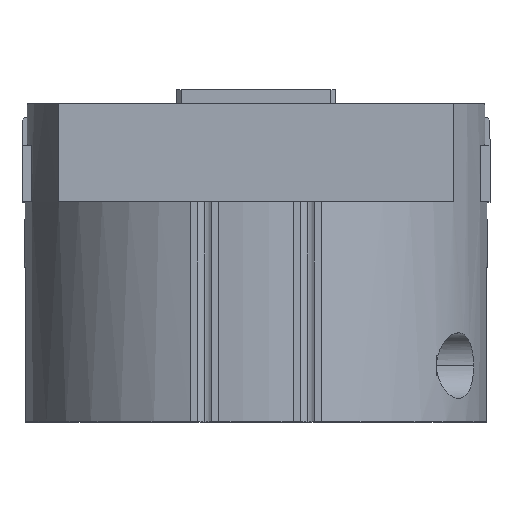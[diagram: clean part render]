
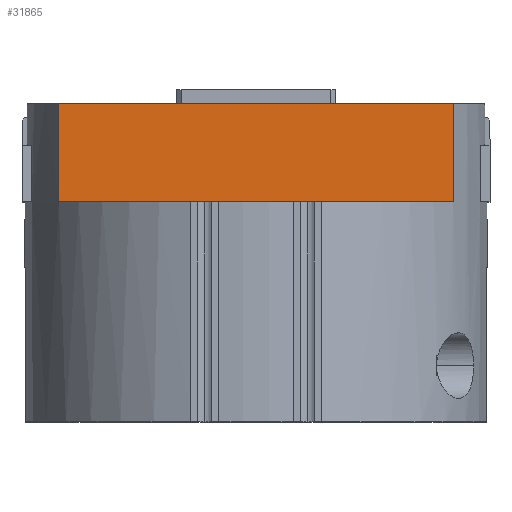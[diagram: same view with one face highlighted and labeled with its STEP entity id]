
A CAD part, top view. The second image highlights one B-rep face of the part: STEP entity #31865.
In plain terms, the highlighted planar face has unit normal (0, 0, 1).
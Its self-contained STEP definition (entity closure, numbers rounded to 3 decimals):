
#330 = DIRECTION ( 'NONE',  ( 1., 0., 0. ) ) ;
#1539 = FACE_OUTER_BOUND ( 'NONE', #22845, .T. ) ;
#1589 = DIRECTION ( 'NONE',  ( 0., -1., 0. ) ) ;
#2658 = EDGE_CURVE ( 'NONE', #53417, #3357, #51726, .T. ) ;
#3357 = VERTEX_POINT ( 'NONE', #16495 ) ;
#3374 = EDGE_CURVE ( 'NONE', #82684, #88142, #26852, .T. ) ;
#4548 = CARTESIAN_POINT ( 'NONE',  ( -42.122, 47., 26. ) ) ;
#6694 = VECTOR ( 'NONE', #1589, 1000. ) ;
#15880 = LINE ( 'NONE', #53275, #56172 ) ;
#16495 = CARTESIAN_POINT ( 'NONE',  ( -42.122, 68., 26. ) ) ;
#18515 = PLANE ( 'NONE',  #69475 ) ;
#22845 = EDGE_LOOP ( 'NONE', ( #63354, #57260, #89161, #79373 ) ) ;
#25368 = CARTESIAN_POINT ( 'NONE',  ( 42.122, 68., 26. ) ) ;
#26687 = EDGE_CURVE ( 'NONE', #53417, #88142, #15880, .T. ) ;
#26852 = LINE ( 'NONE', #31696, #6694 ) ;
#31595 = VECTOR ( 'NONE', #51634, 1000. ) ;
#31696 = CARTESIAN_POINT ( 'NONE',  ( 42.122, 68., 26. ) ) ;
#31865 = ADVANCED_FACE ( 'NONE', ( #1539 ), #18515, .F. ) ;
#33709 = DIRECTION ( 'NONE',  ( 0., 0., -1. ) ) ;
#34323 = LINE ( 'NONE', #93239, #94771 ) ;
#40245 = DIRECTION ( 'NONE',  ( 1., 0., 0. ) ) ;
#45253 = CARTESIAN_POINT ( 'NONE',  ( 42.122, 47., 26. ) ) ;
#51634 = DIRECTION ( 'NONE',  ( 0., 1., 0. ) ) ;
#51726 = LINE ( 'NONE', #89370, #31595 ) ;
#53275 = CARTESIAN_POINT ( 'NONE',  ( -49.5, 47., 26. ) ) ;
#53417 = VERTEX_POINT ( 'NONE', #4548 ) ;
#56172 = VECTOR ( 'NONE', #330, 1000. ) ;
#57260 = ORIENTED_EDGE ( 'NONE', *, *, #26687, .T. ) ;
#63354 = ORIENTED_EDGE ( 'NONE', *, *, #2658, .F. ) ;
#69475 = AXIS2_PLACEMENT_3D ( 'NONE', #71463, #33709, #86667 ) ;
#71463 = CARTESIAN_POINT ( 'NONE',  ( -49.5, 72.957, 26. ) ) ;
#79373 = ORIENTED_EDGE ( 'NONE', *, *, #88425, .F. ) ;
#82684 = VERTEX_POINT ( 'NONE', #25368 ) ;
#86667 = DIRECTION ( 'NONE',  ( 0., 1., 0. ) ) ;
#88142 = VERTEX_POINT ( 'NONE', #45253 ) ;
#88425 = EDGE_CURVE ( 'NONE', #3357, #82684, #34323, .T. ) ;
#89161 = ORIENTED_EDGE ( 'NONE', *, *, #3374, .F. ) ;
#89370 = CARTESIAN_POINT ( 'NONE',  ( -42.122, 68., 26. ) ) ;
#93239 = CARTESIAN_POINT ( 'NONE',  ( 0., 68., 26. ) ) ;
#94771 = VECTOR ( 'NONE', #40245, 1000. ) ;
